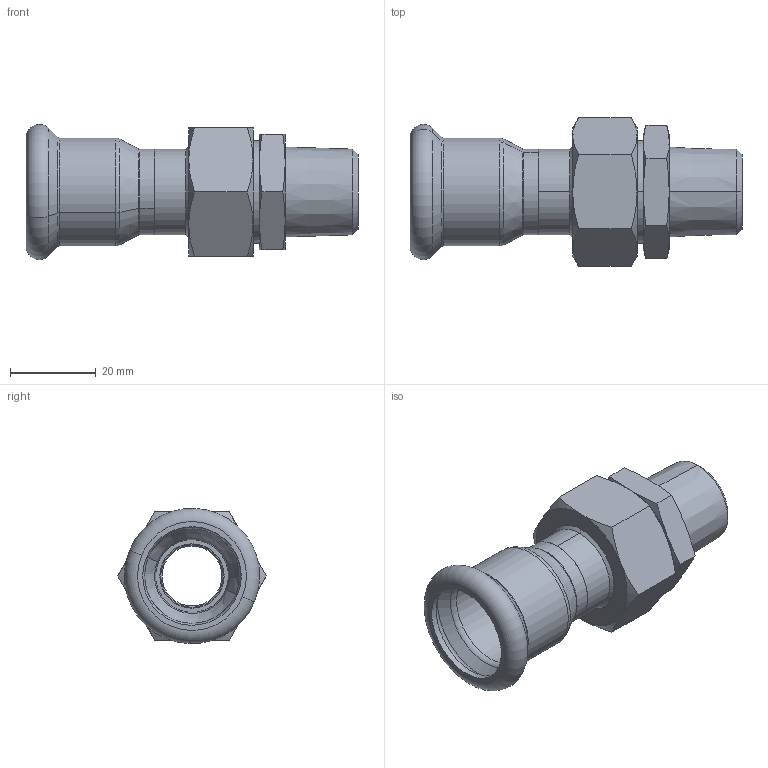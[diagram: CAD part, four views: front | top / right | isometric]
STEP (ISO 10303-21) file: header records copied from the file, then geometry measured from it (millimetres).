
FILE_DESCRIPTION (( 'STEP AP203' ), '1' );
FILE_NAME ('GDA5435.STEP', '2019-01-21T05:20:28', ( '' ), ( '' ), 'SwSTEP 2.0', 'SolidWorks 2015', '' );
FILE_SCHEMA (( 'CONFIG_CONTROL_DESIGN' ));
Length unit declared in the file: millimetre
Products named in the file (6): GDA5435; 蛌遙諉芛0.75-0.5; 0.75; 18｡ﾁ?; T-¢ñ-01-22¡Á20; ZL-Ⅰ-01×?
Assembly tree (5 placements, depth 2):
  GDA5435
    0.75
    18｡ﾁ?
    T-¢ñ-01-22¡Á20
    ZL-Ⅰ-01×?
    蛌遙諉芛0.75-0.5
Bounding box: 77.5 x 34.64 x 31.56 mm (x, y, z)
Volume: 20153.6 mm3; surface area: 16102.5 mm2
Topology: 5 solids, 5 shells, 123 faces, 254 edges, 146 vertices
Faces by surface type: cone 48, cylinder 32, plane 27, torus 16
Entity records: 4054 total; most frequent: CARTESIAN_POINT 803, DIRECTION 606, ORIENTED_EDGE 508, AXIS2_PLACEMENT_3D 269, EDGE_CURVE 254, VERTEX_POINT 146, EDGE_LOOP 138, CIRCLE 138
